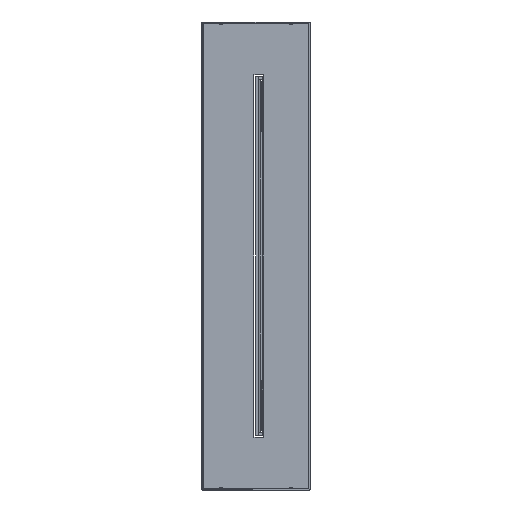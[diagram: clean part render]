
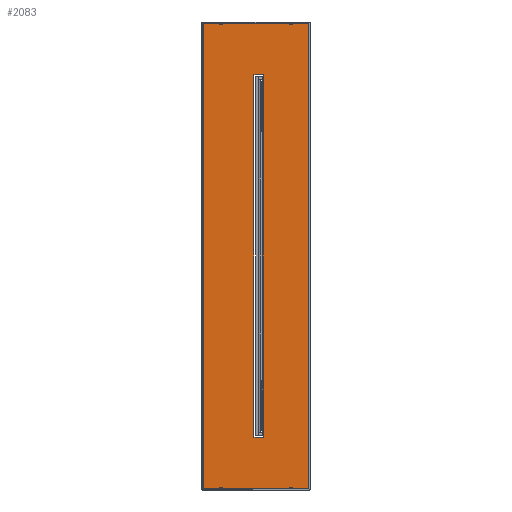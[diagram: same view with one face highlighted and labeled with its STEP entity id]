
A CAD part, left-side view. The second image highlights one B-rep face of the part: STEP entity #2083.
In plain terms, the highlighted planar face has unit normal (-1, 0, 0) as drawn and (0, 0, -1) by its records, which use the part's own axes.
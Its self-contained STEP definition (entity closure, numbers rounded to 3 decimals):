
#97=PLANE('',#2339);
#197=LINE('',#3127,#433);
#201=LINE('',#3136,#437);
#204=LINE('',#3142,#440);
#206=LINE('',#3145,#442);
#208=LINE('',#3148,#444);
#209=LINE('',#3151,#445);
#210=LINE('',#3153,#446);
#211=LINE('',#3155,#447);
#433=VECTOR('',#2541,1000.);
#437=VECTOR('',#2547,1000.);
#440=VECTOR('',#2552,1000.);
#442=VECTOR('',#2556,1000.);
#444=VECTOR('',#2560,1000.);
#445=VECTOR('',#2561,1000.);
#446=VECTOR('',#2562,1000.);
#447=VECTOR('',#2563,1000.);
#701=ORIENTED_EDGE('',*,*,#1278,.T.);
#702=ORIENTED_EDGE('',*,*,#1282,.T.);
#703=ORIENTED_EDGE('',*,*,#1285,.T.);
#704=ORIENTED_EDGE('',*,*,#1287,.T.);
#705=ORIENTED_EDGE('',*,*,#1289,.F.);
#706=ORIENTED_EDGE('',*,*,#1290,.F.);
#707=ORIENTED_EDGE('',*,*,#1291,.F.);
#708=ORIENTED_EDGE('',*,*,#1292,.F.);
#1278=EDGE_CURVE('',#1573,#1572,#197,.T.);
#1282=EDGE_CURVE('',#1572,#1576,#201,.T.);
#1285=EDGE_CURVE('',#1576,#1578,#204,.T.);
#1287=EDGE_CURVE('',#1578,#1573,#206,.T.);
#1289=EDGE_CURVE('',#1579,#1580,#208,.T.);
#1290=EDGE_CURVE('',#1581,#1579,#209,.T.);
#1291=EDGE_CURVE('',#1582,#1581,#210,.T.);
#1292=EDGE_CURVE('',#1580,#1582,#211,.T.);
#1572=VERTEX_POINT('',#3126);
#1573=VERTEX_POINT('',#3128);
#1576=VERTEX_POINT('',#3135);
#1578=VERTEX_POINT('',#3141);
#1579=VERTEX_POINT('',#3149);
#1580=VERTEX_POINT('',#3150);
#1581=VERTEX_POINT('',#3152);
#1582=VERTEX_POINT('',#3154);
#1794=EDGE_LOOP('',(#701,#702,#703,#704));
#1795=EDGE_LOOP('',(#705,#706,#707,#708));
#1926=FACE_BOUND('',#1794,.T.);
#1927=FACE_BOUND('',#1795,.T.);
#2083=ADVANCED_FACE('',(#1926,#1927),#97,.F.);
#2339=AXIS2_PLACEMENT_3D('',#3147,#2558,#2559);
#2541=DIRECTION('',(0.,-1.,0.));
#2547=DIRECTION('',(1.,0.,0.));
#2552=DIRECTION('',(0.,1.,0.));
#2556=DIRECTION('',(-1.,0.,0.));
#2558=DIRECTION('',(0.,0.,1.));
#2559=DIRECTION('',(0.,-1.,0.));
#2560=DIRECTION('',(0.,1.,0.));
#2561=DIRECTION('',(1.,0.,0.));
#2562=DIRECTION('',(0.,-1.,0.));
#2563=DIRECTION('',(-1.,0.,0.));
#3126=CARTESIAN_POINT('',(-5.5,-134.,10.));
#3127=CARTESIAN_POINT('',(-5.5,134.,10.));
#3128=CARTESIAN_POINT('',(-5.5,134.,10.));
#3135=CARTESIAN_POINT('',(1.5,-134.,10.));
#3136=CARTESIAN_POINT('',(-5.5,-134.,10.));
#3141=CARTESIAN_POINT('',(1.5,134.,10.));
#3142=CARTESIAN_POINT('',(1.5,-134.,10.));
#3145=CARTESIAN_POINT('',(1.5,134.,10.));
#3147=CARTESIAN_POINT('',(0.,0.,10.));
#3148=CARTESIAN_POINT('',(39.,-172.,10.));
#3149=CARTESIAN_POINT('',(39.,-172.,10.));
#3150=CARTESIAN_POINT('',(39.,172.,10.));
#3151=CARTESIAN_POINT('',(-39.,-172.,10.));
#3152=CARTESIAN_POINT('',(-39.,-172.,10.));
#3153=CARTESIAN_POINT('',(-39.,172.,10.));
#3154=CARTESIAN_POINT('',(-39.,172.,10.));
#3155=CARTESIAN_POINT('',(39.,172.,10.));
